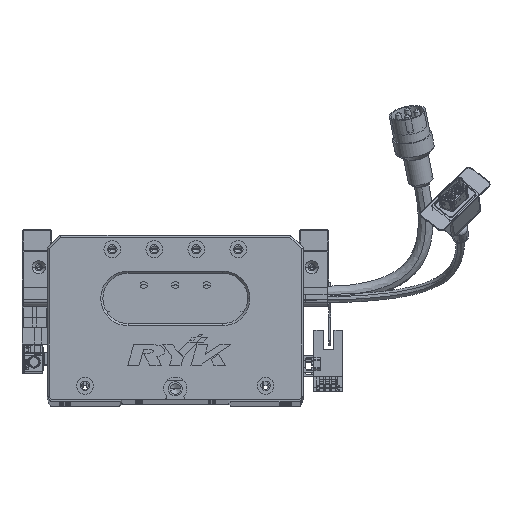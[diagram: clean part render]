
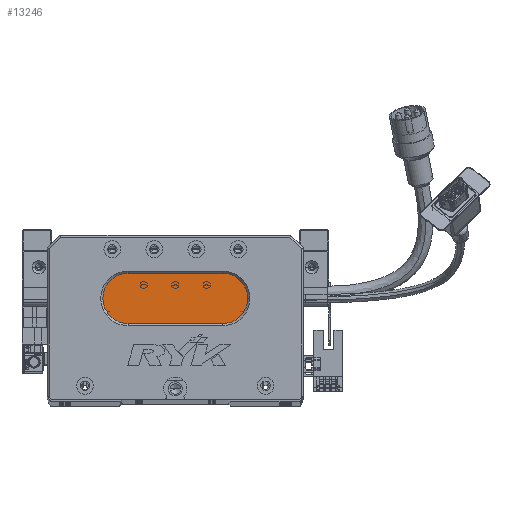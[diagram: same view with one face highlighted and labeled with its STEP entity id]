
A CAD part, top view. The second image highlights one B-rep face of the part: STEP entity #13246.
In plain terms, the highlighted planar face has unit normal (0, 0, 1) as drawn and (0, 0, -1) by its records, which use the part's own axes.
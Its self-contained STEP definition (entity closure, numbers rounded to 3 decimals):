
#645 = CIRCLE ( 'NONE', #29295, 12. ) ;
#1611 = ORIENTED_EDGE ( 'NONE', *, *, #76924, .T. ) ;
#5482 = AXIS2_PLACEMENT_3D ( 'NONE', #67669, #88723, #26441 ) ;
#6865 = DIRECTION ( 'NONE',  ( 0., 0., -1. ) ) ;
#13246 = ADVANCED_FACE ( 'NONE', ( #45516 ), #68661, .T. ) ;
#14339 = AXIS2_PLACEMENT_3D ( 'NONE', #34621, #82779, #49068 ) ;
#20363 = VERTEX_POINT ( 'NONE', #25254 ) ;
#21260 = ORIENTED_EDGE ( 'NONE', *, *, #26682, .T. ) ;
#21346 = DIRECTION ( 'NONE',  ( -1., 0., 0. ) ) ;
#23963 = VERTEX_POINT ( 'NONE', #46427 ) ;
#25254 = CARTESIAN_POINT ( 'NONE',  ( 26.5, 48., 13. ) ) ;
#26441 = DIRECTION ( 'NONE',  ( -1., 0., 0. ) ) ;
#26682 = EDGE_CURVE ( 'NONE', #20363, #62622, #645, .T. ) ;
#27795 = CARTESIAN_POINT ( 'NONE',  ( 38.5, 60., 13. ) ) ;
#29295 = AXIS2_PLACEMENT_3D ( 'NONE', #48783, #6865, #21346 ) ;
#33785 = EDGE_CURVE ( 'NONE', #62622, #40868, #72846, .T. ) ;
#34621 = CARTESIAN_POINT ( 'NONE',  ( 83.5, 48., 13. ) ) ;
#34807 = VERTEX_POINT ( 'NONE', #78480 ) ;
#40051 = AXIS2_PLACEMENT_3D ( 'NONE', #63638, #85024, #63337 ) ;
#40868 = VERTEX_POINT ( 'NONE', #56224 ) ;
#41580 = VECTOR ( 'NONE', #58506, 1000. ) ;
#45516 = FACE_OUTER_BOUND ( 'NONE', #73045, .T. ) ;
#46427 = CARTESIAN_POINT ( 'NONE',  ( 83.5, 36., 13. ) ) ;
#46864 = DIRECTION ( 'NONE',  ( -1., 0., 0. ) ) ;
#48783 = CARTESIAN_POINT ( 'NONE',  ( 38.5, 48., 13. ) ) ;
#49068 = DIRECTION ( 'NONE',  ( -1., 0., 0. ) ) ;
#51931 = ORIENTED_EDGE ( 'NONE', *, *, #66510, .T. ) ;
#55358 = CIRCLE ( 'NONE', #40051, 12. ) ;
#56224 = CARTESIAN_POINT ( 'NONE',  ( 83.5, 60., 13. ) ) ;
#58506 = DIRECTION ( 'NONE',  ( 1., 0., 0. ) ) ;
#59788 = CARTESIAN_POINT ( 'NONE',  ( 83.5, 36., 13. ) ) ;
#62622 = VERTEX_POINT ( 'NONE', #27795 ) ;
#63337 = DIRECTION ( 'NONE',  ( -1., 0., 0. ) ) ;
#63480 = LINE ( 'NONE', #59788, #67836 ) ;
#63638 = CARTESIAN_POINT ( 'NONE',  ( 38.5, 48., 13. ) ) ;
#66510 = EDGE_CURVE ( 'NONE', #40868, #23963, #77357, .T. ) ;
#67669 = CARTESIAN_POINT ( 'NONE',  ( 83.5, 48., 13. ) ) ;
#67836 = VECTOR ( 'NONE', #46864, 1000. ) ;
#68661 = PLANE ( 'NONE',  #14339 ) ;
#70530 = ORIENTED_EDGE ( 'NONE', *, *, #80822, .T. ) ;
#72846 = LINE ( 'NONE', #85917, #41580 ) ;
#73045 = EDGE_LOOP ( 'NONE', ( #51931, #70530, #1611, #21260, #85880 ) ) ;
#76924 = EDGE_CURVE ( 'NONE', #34807, #20363, #55358, .T. ) ;
#77357 = CIRCLE ( 'NONE', #5482, 12. ) ;
#78480 = CARTESIAN_POINT ( 'NONE',  ( 38.5, 36., 13. ) ) ;
#80822 = EDGE_CURVE ( 'NONE', #23963, #34807, #63480, .T. ) ;
#82779 = DIRECTION ( 'NONE',  ( 0., 0., -1. ) ) ;
#85024 = DIRECTION ( 'NONE',  ( 0., 0., -1. ) ) ;
#85880 = ORIENTED_EDGE ( 'NONE', *, *, #33785, .T. ) ;
#85917 = CARTESIAN_POINT ( 'NONE',  ( 83.5, 60., 13. ) ) ;
#88723 = DIRECTION ( 'NONE',  ( 0., 0., -1. ) ) ;
